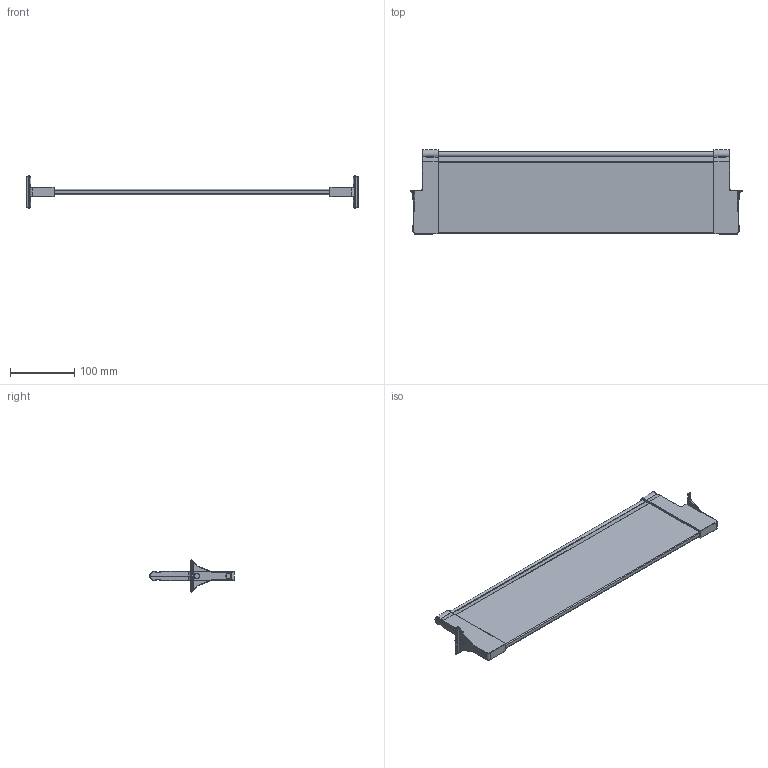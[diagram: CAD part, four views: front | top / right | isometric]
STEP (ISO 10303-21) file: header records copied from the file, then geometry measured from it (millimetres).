
FILE_DESCRIPTION (( 'STEP AP214' ), '1' );
FILE_NAME ('Nova-Pro P622 Querteiler H90Nova PRO Querteiler_H90_KAB 600_16.step', '2009-11-06T06:59:29', ( 'Waldinger Reinhard' ), ( 'Grass GmbH' ), 'SwSTEP 2.0', 'SolidWorks 2009', '' );
FILE_SCHEMA (( 'AUTOMOTIVE_DESIGN' ));
Length unit declared in the file: millimetre
Products named in the file (1): Nova-Pro P622 Querteiler H90Nova PRO Querteiler_H90_KAB 600_16
Bounding box: 518.1 x 132 x 49.97 mm (x, y, z)
Volume: 552097.1 mm3; surface area: 141656.4 mm2
Topology: 1 solids, 1 shells, 248 faces, 578 edges, 334 vertices
Faces by surface type: cylinder 107, bspline 64, plane 51, torus 12, sphere 12, cone 2
Entity records: 11002 total; most frequent: CARTESIAN_POINT 5879, ORIENTED_EDGE 1148, DIRECTION 966, EDGE_CURVE 574, AXIS2_PLACEMENT_3D 369, VERTEX_POINT 334, EDGE_LOOP 254, ADVANCED_FACE 248
